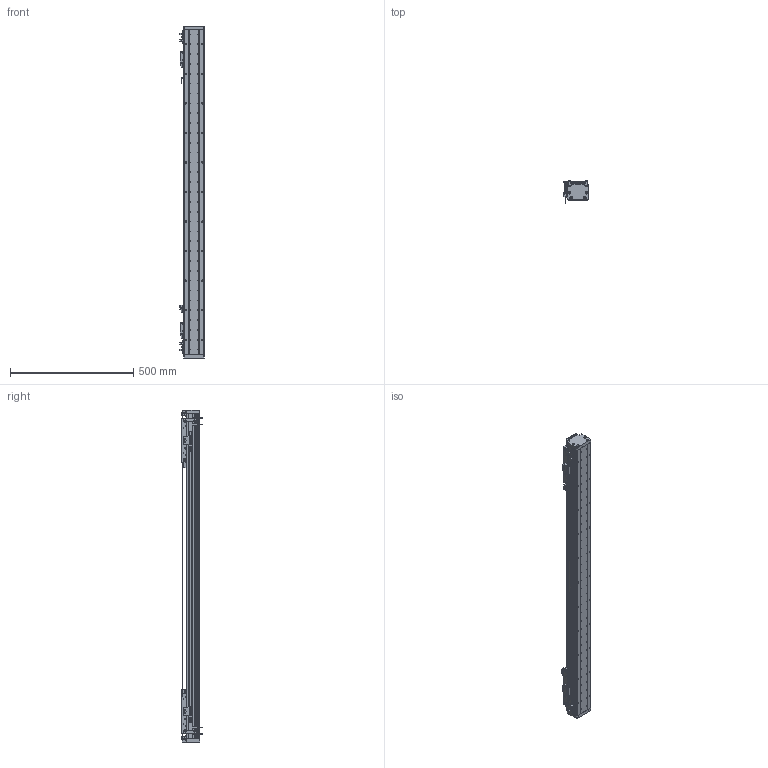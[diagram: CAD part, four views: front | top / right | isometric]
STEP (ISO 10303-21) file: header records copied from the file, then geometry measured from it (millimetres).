
FILE_DESCRIPTION (( 'STEP AP203' ), '1' );
FILE_NAME ('DA-A82-2-B2-T900-C010-0.2 眻盄萇儂.STEP', '2025-08-13T02:32:22', ( '' ), ( '' ), 'SwSTEP 2.0', 'SolidWorks 2019', '' );
FILE_SCHEMA (( 'CONFIG_CONTROL_DESIGN' ));
Length unit declared in the file: millimetre
Products named in the file (29): 复件 DA60-DMT-DTJ-00 读数头支架^DA-A82-B2-T-C010-0.2-N 直线电机; 复件 DA95-B2-GT-00 滑块钢轨^AU82-M-00 一体化滑动台板; 复件 DA82-GYP-ZJ-00 中间光电感应片^DA-A82-B2-T-C010-0.2-N 直线电机; 复件 六角薄螺母 M3^DA-A82-B2-T-C010-0.2-N 直线电机; AU82-M 幗紩賑怢; 复件 复件 DA82-XJ-00 缓冲橡胶^DA-A82-B2-T-C010-0.2-N 直线电机; 复件 DKW-GJ-XJ-00 防撞橡胶^DA-A82-B2-T-C010-0.2-N 直线电机; DA-A82-2-B2-T900-C010-0.2 眻盄萇儂; 复件 复件 复件 DA82 钢带盖板^DA-A82-B2-T-C010-0.2-N 直线电机(默认); 复件 复件 17517-0000-003-00 钢带拉块^DA-A82-B2-T-C010-0.2-N 直线电机; 葩璃 BKM01-W040-TRL^DA-A82-B2-T-C010-0.2-N 眻盄萇儂; AU82-M 幗紩賑怢-1; DA-A60-GYP-DMT-00 光电感应片^DA-A82-B2-T-C010-0.2-N 直线电机(默认); 复件 复件 17517-0000-004-00  钢带压块^DA-A82-B2-T-C010-0.2-N 直线电机(默认); 葩璃 DMT-010 1米m 0.2M^DA-A82-B2-T-C010-0.2-N 眻盄萇儂; AU82-HT-M-00 賑雄怢啣; IU-AU82-L 菁釱絳寢; 复件 DA95-GT-T-00 底座钢轨^IU-AU82-L 底座导轨; 葩璃 PM-L25^DA-A82-B2-T-C010-0.2-N 眻盄萇儂; 葩璃 DA82-B2-DP-00 結え^AU82-M 幗紩賑怢; 复件 纯铜油杯 6x6mm^AU82-M 滚珠滑台; 复件 复件 17517-0000-002-00 端板^DA-A82-B2-T-C010-0.2-N 直线电机; AU82-M-00 珨极趙賑雄怢啣; 复件 BKM02-W040-C1-TP-DA-3.0 直线电机动子^DA-A82-B2-T-C010-0.2-N 直线电机; IU-AU82-L-00 菁釱(L1320); 复件 DA82-GDZ-ZJ-00 中间光电固定座^DA-A82-B2-T-C010-0.2-N 直线电机; AU82-M-00 珨极趙賑雄怢啣-1; 复件 XD-U-02  磁栅尺^DA-A82-B2-T-C010-0.2-N 直线电机; 葩璃 PM-T45^DA-A82-B2-T-C010-0.2-N 眻盄萇儂
Assembly tree (61 placements, depth 4):
  DA-A82-2-B2-T900-C010-0.2 眻盄萇儂
    IU-AU82-L 菁釱絳寢
      IU-AU82-L-00 菁釱(L1320)
      复件 DA95-GT-T-00 底座钢轨^IU-AU82-L 底座导轨  x2
    AU82-M 幗紩賑怢
      AU82-M-00 珨极趙賑雄怢啣
        AU82-HT-M-00 賑雄怢啣
        复件 DA95-B2-GT-00 滑块钢轨^AU82-M-00 一体化滑动台板  x4
      葩璃 DA82-B2-DP-00 結え^AU82-M 幗紩賑怢  x2
      复件 纯铜油杯 6x6mm^AU82-M 滚珠滑台  x2
    AU82-M 幗紩賑怢-1
      AU82-M-00 珨极趙賑雄怢啣-1
        AU82-HT-M-00 賑雄怢啣
        复件 DA95-B2-GT-00 滑块钢轨^AU82-M-00 一体化滑动台板  x4
      葩璃 DA82-B2-DP-00 結え^AU82-M 幗紩賑怢  x2
      复件 纯铜油杯 6x6mm^AU82-M 滚珠滑台  x2
    复件 BKM02-W040-C1-TP-DA-3.0 直线电机动子^DA-A82-B2-T-C010-0.2-N 直线电机  x2
    复件 DA60-DMT-DTJ-00 读数头支架^DA-A82-B2-T-C010-0.2-N 直线电机  x2
    葩璃 DMT-010 1米m 0.2M^DA-A82-B2-T-C010-0.2-N 眻盄萇儂  x2
    DA-A60-GYP-DMT-00 光电感应片^DA-A82-B2-T-C010-0.2-N 直线电机(默认)  x2
    复件 DA82-GDZ-ZJ-00 中间光电固定座^DA-A82-B2-T-C010-0.2-N 直线电机
    葩璃 PM-L25^DA-A82-B2-T-C010-0.2-N 眻盄萇儂
    复件 DA82-GYP-ZJ-00 中间光电感应片^DA-A82-B2-T-C010-0.2-N 直线电机
    复件 DKW-GJ-XJ-00 防撞橡胶^DA-A82-B2-T-C010-0.2-N 直线电机
    复件 复件 17517-0000-003-00 钢带拉块^DA-A82-B2-T-C010-0.2-N 直线电机  x2
    复件 复件 DA82-XJ-00 缓冲橡胶^DA-A82-B2-T-C010-0.2-N 直线电机  x2
    复件 复件 17517-0000-004-00  钢带压块^DA-A82-B2-T-C010-0.2-N 直线电机(默认)  x2
    复件 复件 17517-0000-002-00 端板^DA-A82-B2-T-C010-0.2-N 直线电机  x2
    复件 复件 复件 DA82 钢带盖板^DA-A82-B2-T-C010-0.2-N 直线电机(默认)
    葩璃 BKM01-W040-TRL^DA-A82-B2-T-C010-0.2-N 眻盄萇儂
    葩璃 PM-T45^DA-A82-B2-T-C010-0.2-N 眻盄萇儂  x4
    复件 XD-U-02  磁栅尺^DA-A82-B2-T-C010-0.2-N 直线电机
    复件 六角薄螺母 M3^DA-A82-B2-T-C010-0.2-N 直线电机  x8
Bounding box: 98.95 x 87.2 x 1348 mm (x, y, z)
Volume: 4431324.2 mm3; surface area: 1310582.6 mm2
Topology: 70 solids, 118 shells, 3275 faces, 8393 edges, 5198 vertices
Faces by surface type: cylinder 1459, plane 1324, cone 456, bspline 16, torus 16, sphere 4
Entity records: 65665 total; most frequent: CARTESIAN_POINT 14153, DIRECTION 10227, ORIENTED_EDGE 9568, EDGE_CURVE 4784, AXIS2_PLACEMENT_3D 3867, VERTEX_POINT 3102, VECTOR 2493, LINE 2493
